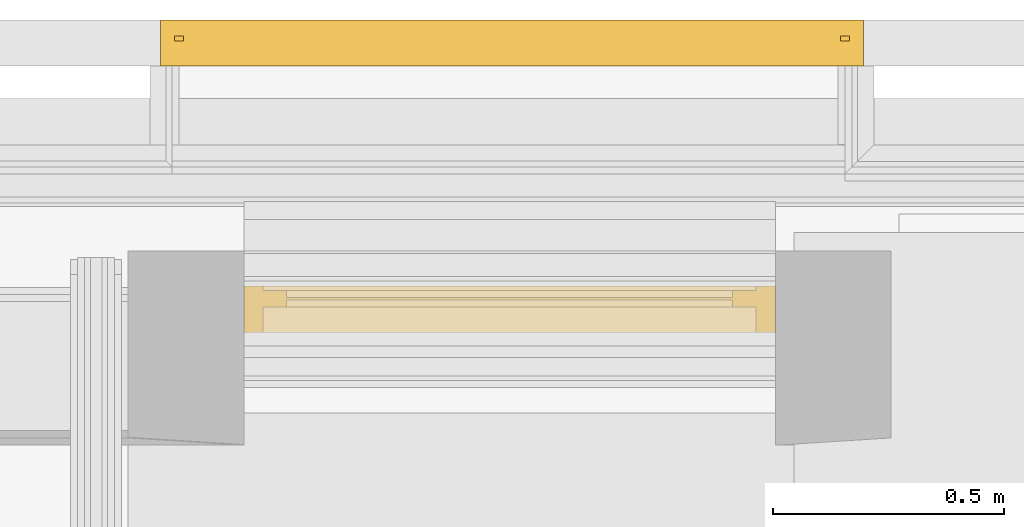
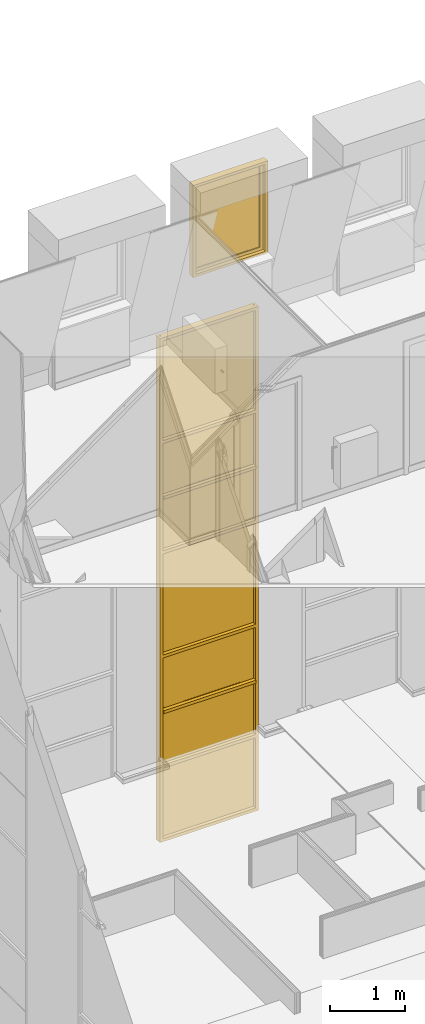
# One storey, part 111 of 169: 1 curtain wall, 1 window.
"""IFC2X3 building model written with IfcOpenShell, lengths in metres."""

from ifc_helpers import new_model, entity, si_unit, converted_unit, derived_unit, money_unit, direction, frame, origin_with_axes, place, context, subcontext, project, spatial, faceted_brep, material, type_object, element, save


model = new_model("IFC2X3")

# Units and contexts
model_context = context("Model", 3, precision=1e-05, world=origin_with_axes(), true_north=direction((0.0, 1.0)))
body_context = subcontext(model_context, "Body", "Model", "MODEL_VIEW", scale=1.0)
ifc_project = project(units=[si_unit("LENGTHUNIT", "METRE"), si_unit("AREAUNIT", "SQUARE_METRE"), si_unit("VOLUMEUNIT", "CUBIC_METRE"), si_unit("ABSORBEDDOSEUNIT", "GRAY"), si_unit("AMOUNTOFSUBSTANCEUNIT", "MOLE"), si_unit("DOSEEQUIVALENTUNIT", "SIEVERT"), si_unit("ELECTRICCAPACITANCEUNIT", "FARAD"), si_unit("ELECTRICCHARGEUNIT", "COULOMB"), si_unit("ELECTRICCONDUCTANCEUNIT", "SIEMENS"), si_unit("ELECTRICCURRENTUNIT", "AMPERE"), si_unit("ELECTRICRESISTANCEUNIT", "OHM"), si_unit("ELECTRICVOLTAGEUNIT", "VOLT"), si_unit("ENERGYUNIT", "JOULE"), si_unit("FORCEUNIT", "NEWTON"), si_unit("FREQUENCYUNIT", "HERTZ"), si_unit("ILLUMINANCEUNIT", "LUX"), si_unit("INDUCTANCEUNIT", "HENRY"), si_unit("LUMINOUSFLUXUNIT", "LUMEN"), si_unit("LUMINOUSINTENSITYUNIT", "CANDELA"), si_unit("MAGNETICFLUXDENSITYUNIT", "TESLA"), si_unit("MAGNETICFLUXUNIT", "WEBER"), si_unit("MASSUNIT", "GRAM"), converted_unit("PLANEANGLEUNIT", "degree", entity("IfcReal", 0.0174532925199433), si_unit("PLANEANGLEUNIT", "RADIAN"), dimensions=[0, 0, 0, 0, 0, 0, 0]), si_unit("POWERUNIT", "WATT"), si_unit("PRESSUREUNIT", "PASCAL"), si_unit("RADIOACTIVITYUNIT", "BECQUEREL"), si_unit("SOLIDANGLEUNIT", "STERADIAN"), si_unit("THERMODYNAMICTEMPERATUREUNIT", "KELVIN"), si_unit("TIMEUNIT", "SECOND"), derived_unit("ACCELERATIONUNIT", [(si_unit("LENGTHUNIT", "METRE"), 1), (si_unit("TIMEUNIT", "SECOND"), -2)]), derived_unit("ANGULARVELOCITYUNIT", [(converted_unit("PLANEANGLEUNIT", "degree", entity("IfcReal", 0.0174532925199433), si_unit("PLANEANGLEUNIT", "RADIAN"), dimensions=[0, 0, 0, 0, 0, 0, 0]), 1), (si_unit("TIMEUNIT", "SECOND"), -1)]), derived_unit("CURVATUREUNIT", [(converted_unit("PLANEANGLEUNIT", "degree", entity("IfcReal", 0.0174532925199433), si_unit("PLANEANGLEUNIT", "RADIAN"), dimensions=[0, 0, 0, 0, 0, 0, 0]), 1), (si_unit("LENGTHUNIT", "METRE"), -1)]), derived_unit("DYNAMICVISCOSITYUNIT", [(si_unit("PRESSUREUNIT", "PASCAL"), 1), (si_unit("TIMEUNIT", "SECOND"), 1)]), derived_unit("HEATFLUXDENSITYUNIT", [(si_unit("POWERUNIT", "WATT"), 1), (si_unit("LENGTHUNIT", "METRE"), -2)]), derived_unit("HEATINGVALUEUNIT", [(si_unit("ENERGYUNIT", "JOULE"), 1), (si_unit("MASSUNIT", "GRAM"), -1)]), derived_unit("INTEGERCOUNTRATEUNIT", [(si_unit("TIMEUNIT", "SECOND"), -1)]), derived_unit("IONCONCENTRATIONUNIT", [(si_unit("MASSUNIT", "GRAM"), 1), (si_unit("VOLUMEUNIT", "CUBIC_METRE"), -1)]), derived_unit("ISOTHERMALMOISTURECAPACITYUNIT", [(si_unit("VOLUMEUNIT", "CUBIC_METRE"), 1), (si_unit("MASSUNIT", "GRAM"), -1)]), derived_unit("KINEMATICVISCOSITYUNIT", [(si_unit("AREAUNIT", "SQUARE_METRE"), 1), (si_unit("TIMEUNIT", "SECOND"), -1)]), derived_unit("LINEARFORCEUNIT", [(si_unit("FORCEUNIT", "NEWTON"), 1), (si_unit("LENGTHUNIT", "METRE"), -1)]), derived_unit("LINEARMOMENTUNIT", [(si_unit("FORCEUNIT", "NEWTON"), 1), (si_unit("LENGTHUNIT", "METRE"), -1)]), derived_unit("LINEARSTIFFNESSUNIT", [(si_unit("FORCEUNIT", "NEWTON"), 1), (si_unit("LENGTHUNIT", "METRE"), -1)]), derived_unit("LINEARVELOCITYUNIT", [(si_unit("LENGTHUNIT", "METRE"), 1), (si_unit("TIMEUNIT", "SECOND"), -1)]), derived_unit("LUMINOUSINTENSITYDISTRIBUTIONUNIT", [(si_unit("LUMINOUSINTENSITYUNIT", "CANDELA"), 1), (si_unit("LUMINOUSFLUXUNIT", "LUMEN"), -1)]), derived_unit("MASSDENSITYUNIT", [(si_unit("MASSUNIT", "GRAM"), 1), (si_unit("VOLUMEUNIT", "CUBIC_METRE"), -1)]), derived_unit("MASSFLOWRATEUNIT", [(si_unit("MASSUNIT", "GRAM"), 1), (si_unit("TIMEUNIT", "SECOND"), -1)]), derived_unit("MASSPERLENGTHUNIT", [(si_unit("MASSUNIT", "GRAM"), 1), (si_unit("LENGTHUNIT", "METRE"), -1)]), derived_unit("MODULUSOFELASTICITYUNIT", [(si_unit("FORCEUNIT", "NEWTON"), 1), (si_unit("AREAUNIT", "SQUARE_METRE"), -1)]), derived_unit("MODULUSOFLINEARSUBGRADEREACTIONUNIT", [(si_unit("FORCEUNIT", "NEWTON"), 1), (si_unit("LENGTHUNIT", "METRE"), -2)]), derived_unit("MODULUSOFROTATIONALSUBGRADEREACTIONUNIT", [(si_unit("FORCEUNIT", "NEWTON"), 1), (si_unit("LENGTHUNIT", "METRE"), 1)]), derived_unit("MODULUSOFSUBGRADEREACTIONUNIT", [(si_unit("FORCEUNIT", "NEWTON"), 1), (si_unit("VOLUMEUNIT", "CUBIC_METRE"), -1)]), derived_unit("MOISTUREDIFFUSIVITYUNIT", [(si_unit("VOLUMEUNIT", "CUBIC_METRE"), 1), (si_unit("TIMEUNIT", "SECOND"), -1)]), derived_unit("MOLECULARWEIGHTUNIT", [(si_unit("MASSUNIT", "GRAM"), 1), (si_unit("AMOUNTOFSUBSTANCEUNIT", "MOLE"), -1)]), derived_unit("PLANARFORCEUNIT", [(si_unit("FORCEUNIT", "NEWTON"), 1), (si_unit("LENGTHUNIT", "METRE"), -2)]), derived_unit("ROTATIONALFREQUENCYUNIT", [(si_unit("TIMEUNIT", "SECOND"), -1)]), derived_unit("ROTATIONALMASSUNIT", [(si_unit("MASSUNIT", "GRAM"), 1), (si_unit("LENGTHUNIT", "METRE"), 2)]), derived_unit("ROTATIONALSTIFFNESSUNIT", [(si_unit("FORCEUNIT", "NEWTON"), 1), (si_unit("LENGTHUNIT", "METRE"), 1), (converted_unit("PLANEANGLEUNIT", "degree", entity("IfcReal", 0.0174532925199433), si_unit("PLANEANGLEUNIT", "RADIAN"), dimensions=[0, 0, 0, 0, 0, 0, 0]), -1)]), derived_unit("SECTIONAREAINTEGRALUNIT", [(si_unit("LENGTHUNIT", "METRE"), 5)]), derived_unit("SECTIONMODULUSUNIT", [(si_unit("LENGTHUNIT", "METRE"), 3)]), derived_unit("SHEARMODULUSUNIT", [(si_unit("FORCEUNIT", "NEWTON"), 1), (si_unit("AREAUNIT", "SQUARE_METRE"), -1)]), derived_unit("SOUNDPOWERUNIT", [(si_unit("ENERGYUNIT", "JOULE"), 1), (si_unit("TIMEUNIT", "SECOND"), -1)]), derived_unit("SPECIFICHEATCAPACITYUNIT", [(si_unit("FORCEUNIT", "NEWTON"), 1), (si_unit("MASSUNIT", "GRAM"), -1), (si_unit("THERMODYNAMICTEMPERATUREUNIT", "KELVIN"), -1)]), derived_unit("TEMPERATUREGRADIENTUNIT", [(si_unit("THERMODYNAMICTEMPERATUREUNIT", "KELVIN"), 1), (si_unit("LENGTHUNIT", "METRE"), -1)]), derived_unit("THERMALADMITTANCEUNIT", [(si_unit("POWERUNIT", "WATT"), 1), (si_unit("AREAUNIT", "SQUARE_METRE"), -1), (si_unit("THERMODYNAMICTEMPERATUREUNIT", "KELVIN"), -1)]), derived_unit("THERMALCONDUCTANCEUNIT", [(si_unit("POWERUNIT", "WATT"), 1), (si_unit("LENGTHUNIT", "METRE"), -1), (si_unit("THERMODYNAMICTEMPERATUREUNIT", "KELVIN"), -1)]), derived_unit("THERMALEXPANSIONCOEFFICIENTUNIT", [(si_unit("THERMODYNAMICTEMPERATUREUNIT", "KELVIN"), -1)]), derived_unit("THERMALRESISTANCEUNIT", [(si_unit("AREAUNIT", "SQUARE_METRE"), 1), (si_unit("POWERUNIT", "WATT"), -1)]), derived_unit("THERMALTRANSMITTANCEUNIT", [(si_unit("POWERUNIT", "WATT"), 1), (si_unit("AREAUNIT", "SQUARE_METRE"), -1), (si_unit("THERMODYNAMICTEMPERATUREUNIT", "KELVIN"), -1)]), derived_unit("TORQUEUNIT", [(si_unit("FORCEUNIT", "NEWTON"), 1), (si_unit("LENGTHUNIT", "METRE"), 1)]), derived_unit("VAPORPERMEABILITYUNIT", [(si_unit("MASSUNIT", "GRAM"), 1), (si_unit("TIMEUNIT", "SECOND"), -1)]), derived_unit("VOLUMETRICFLOWRATEUNIT", [(si_unit("VOLUMEUNIT", "CUBIC_METRE"), 1), (si_unit("TIMEUNIT", "SECOND"), -1)]), derived_unit("WARPINGCONSTANTUNIT", [(si_unit("LENGTHUNIT", "METRE"), 6)]), derived_unit("WARPINGMOMENTUNIT", [(si_unit("FORCEUNIT", "NEWTON"), 1), (si_unit("LENGTHUNIT", "METRE"), 2)]), money_unit("GBP")], contexts=[model_context])

# Site, building, storey
site_placement = place(None, origin_with_axes())
site = spatial("IfcSite", under=ifc_project, at=site_placement, Name="Site", CompositionType="ELEMENT")
building_placement = place(site_placement, origin_with_axes())
building = spatial("IfcBuilding", under=site, at=building_placement, Name="Building01", CompositionType="ELEMENT")
storey_placement = place(building_placement, frame((0.0, 0.0, 5.15), z_axis=(0.0, 0.0, 1.0), x_axis=(1.0, 0.0, 0.0)))
storey = spatial("IfcBuildingStorey", under=building, at=storey_placement, Name="1F", CompositionType="ELEMENT", Elevation=5.15)

# Curtain wall
ifc_material_1 = material(Name="A-CurtainWall_Frame")
curtain_wall_type = type_object("IfcCurtainWallType", Name="Pattern - Maximum Spacing", PredefinedType="NOTDEFINED")
curtain_wall_placement = place(storey_placement, frame((0.0, 0.0, -5.15), z_axis=(0.0, 0.0, 1.0), x_axis=(1.0, 0.0, 0.0)))
element("IfcCurtainWall", 1, at=curtain_wall_placement, inside=storey, type_object=curtain_wall_type, material=ifc_material_1, Name="10", ObjectType="Pattern - Maximum Spacing", context=body_context, shape_type="Brep", body=[
    faceted_brep([(6.57, 14.855, 7.716517), (6.57, 14.865, 7.716517), (5.11, 14.865, 7.716517), (5.11, 14.855, 7.716517), (6.57, 14.855, 6.530918), (6.57, 14.865, 6.530918), (5.11, 14.855, 6.530918), (5.11, 14.865, 6.530918)], [[[0, 1, 2, 3]], [[4, 5, 1, 0]], [[6, 7, 5, 4]], [[3, 2, 7, 6]], [[1, 5, 7, 2]], [[3, 6, 4, 0]]]),
    faceted_brep([(5.08, 14.9, 6.500918), (5.13, 14.9, 6.500918), (5.13, 14.865, 6.500918), (5.11, 14.865, 6.500918), (5.11, 14.855, 6.500918), (5.13, 14.855, 6.500918), (5.13, 14.8, 6.500918), (5.08, 14.8, 6.500918), (5.08, 14.8, 7.721517), (5.08, 14.9, 7.721517), (5.13, 14.9, 7.721517), (5.13, 14.865, 7.721517), (5.11, 14.865, 7.721517), (5.11, 14.855, 7.721517), (5.13, 14.855, 7.721517), (5.13, 14.8, 7.721517)], [[[0, 1, 2, 3, 4, 5, 6, 7]], [[7, 8, 9, 0]], [[0, 9, 10, 1]], [[1, 10, 11, 2]], [[2, 11, 12, 3]], [[3, 12, 13, 4]], [[4, 13, 14, 5]], [[5, 14, 15, 6]], [[6, 15, 8, 7]]]),
    faceted_brep([(6.55, 14.9, 6.550918), (6.55, 14.865, 6.550918), (6.55, 14.865, 6.530918), (6.55, 14.855, 6.530918), (6.55, 14.855, 6.550918), (6.55, 14.8, 6.550918), (6.55, 14.8, 6.500918), (6.55, 14.9, 6.500918), (5.13, 14.9, 6.500918), (5.13, 14.9, 6.550918), (5.13, 14.865, 6.550918), (5.13, 14.865, 6.530918), (5.13, 14.855, 6.530918), (5.13, 14.855, 6.550918), (5.13, 14.8, 6.550918), (5.13, 14.8, 6.500918)], [[[0, 1, 2, 3, 4, 5, 6, 7]], [[7, 8, 9, 0]], [[0, 9, 10, 1]], [[1, 10, 11, 2]], [[2, 11, 12, 3]], [[3, 12, 13, 4]], [[4, 13, 14, 5]], [[5, 14, 15, 6]], [[6, 15, 8, 7]], [[8, 15, 14, 13, 12, 11, 10, 9]]]),
    faceted_brep([(6.6, 14.9, 6.500918), (6.6, 14.9, 7.721517), (6.6, 14.8, 7.721517), (6.6, 14.8, 6.500918), (6.55, 14.9, 6.500918), (6.55, 14.9, 7.721517), (6.55, 14.865, 6.500918), (6.55, 14.865, 7.721517), (6.57, 14.865, 6.500918), (6.57, 14.865, 7.721517), (6.57, 14.855, 6.500918), (6.57, 14.855, 7.721517), (6.55, 14.855, 6.500918), (6.55, 14.855, 7.721517), (6.55, 14.8, 6.500918), (6.55, 14.8, 7.721517)], [[[0, 1, 2, 3]], [[4, 5, 1, 0]], [[6, 7, 5, 4]], [[8, 9, 7, 6]], [[10, 11, 9, 8]], [[12, 13, 11, 10]], [[14, 15, 13, 12]], [[3, 2, 15, 14]], [[14, 12, 10, 8, 6, 4, 0, 3]]]),
    faceted_brep([(5.13, 14.855, 7.726517), (5.13, 14.865, 7.726517), (5.13, 14.865, 7.746517), (5.13, 14.9, 7.746517), (5.13, 14.9, 7.696517), (5.13, 14.865, 7.696517), (5.13, 14.865, 7.716517), (5.13, 14.855, 7.716517), (5.13, 14.855, 7.696517), (5.13, 14.8, 7.696517), (5.13, 14.8, 7.746517), (5.13, 14.855, 7.746517), (6.55, 14.855, 7.746517), (6.55, 14.855, 7.726517), (6.55, 14.865, 7.726517), (6.55, 14.865, 7.746517), (6.55, 14.9, 7.746517), (6.55, 14.9, 7.696517), (6.55, 14.865, 7.696517), (6.55, 14.855, 7.716517), (6.55, 14.855, 7.696517), (6.55, 14.865, 7.716517), (6.55, 14.8, 7.746517), (6.55, 14.8, 7.696517)], [[[0, 1, 2, 3, 4, 5, 6, 7, 8, 9, 10, 11]], [[11, 12, 13, 0]], [[0, 13, 14, 1]], [[1, 14, 15, 2]], [[2, 15, 16, 3]], [[3, 16, 17, 4]], [[4, 17, 18, 5]], [[7, 19, 20, 8]], [[6, 21, 19, 7]], [[5, 18, 21, 6]], [[10, 22, 12, 11]], [[9, 23, 22, 10]], [[8, 20, 23, 9]], [[20, 19, 21, 18, 17, 16, 15, 14, 13, 12, 22, 23]]]),
    faceted_brep([(6.57, 14.85, 8.613217), (6.57, 14.87, 8.613217), (5.11, 14.87, 8.613217), (5.11, 14.85, 8.613217), (6.57, 14.85, 7.726517), (6.57, 14.87, 7.726517), (5.11, 14.85, 7.726517), (5.11, 14.87, 7.726517)], [[[0, 1, 2, 3]], [[4, 5, 1, 0]], [[6, 7, 5, 4]], [[3, 2, 7, 6]], [[1, 5, 7, 2]], [[3, 6, 4, 0]]]),
    faceted_brep([(5.13, 14.8, 8.618217), (5.13, 14.8, 7.721517), (5.13, 14.855, 7.721517), (5.13, 14.855, 8.618217), (5.08, 14.8, 8.618217), (5.08, 14.8, 7.721517), (5.08, 14.9, 8.618217), (5.08, 14.9, 7.721517), (5.13, 14.9, 8.618217), (5.13, 14.9, 7.721517), (5.13, 14.865, 8.618217), (5.13, 14.865, 7.721517), (5.11, 14.865, 8.618217), (5.11, 14.865, 7.721517), (5.11, 14.855, 8.618217), (5.11, 14.855, 7.721517)], [[[0, 1, 2, 3]], [[4, 5, 1, 0]], [[6, 7, 5, 4]], [[8, 9, 7, 6]], [[10, 11, 9, 8]], [[12, 13, 11, 10]], [[14, 15, 13, 12]], [[3, 2, 15, 14]]]),
    faceted_brep([(6.6, 14.9, 7.721517), (6.6, 14.9, 8.618217), (6.6, 14.8, 8.618217), (6.6, 14.8, 7.721517), (6.55, 14.9, 7.721517), (6.55, 14.9, 8.618217), (6.55, 14.865, 7.721517), (6.55, 14.865, 8.618217), (6.57, 14.865, 7.721517), (6.57, 14.865, 8.618217), (6.57, 14.855, 7.721517), (6.57, 14.855, 8.618217), (6.55, 14.855, 7.721517), (6.55, 14.855, 8.618217), (6.55, 14.8, 7.721517), (6.55, 14.8, 8.618217)], [[[0, 1, 2, 3]], [[4, 5, 1, 0]], [[6, 7, 5, 4]], [[8, 9, 7, 6]], [[10, 11, 9, 8]], [[12, 13, 11, 10]], [[14, 15, 13, 12]], [[3, 2, 15, 14]]]),
    faceted_brep([(5.13, 14.8375, 8.623217), (5.13, 14.8475, 8.623217), (5.13, 14.8475, 8.643217), (5.13, 14.8825, 8.643217), (5.13, 14.8825, 8.593217), (5.13, 14.8475, 8.593217), (5.13, 14.8475, 8.613217), (5.13, 14.8375, 8.613217), (5.13, 14.8375, 8.593217), (5.13, 14.7825, 8.593217), (5.13, 14.7825, 8.643217), (5.13, 14.8375, 8.643217), (6.55, 14.8375, 8.643217), (6.55, 14.8375, 8.623217), (6.55, 14.8475, 8.623217), (6.55, 14.8475, 8.643217), (6.55, 14.8825, 8.643217), (6.55, 14.8825, 8.593217), (6.55, 14.8475, 8.593217), (6.55, 14.8375, 8.613217), (6.55, 14.8375, 8.593217), (6.55, 14.8475, 8.613217), (6.55, 14.7825, 8.643217), (6.55, 14.7825, 8.593217)], [[[0, 1, 2, 3, 4, 5, 6, 7, 8, 9, 10, 11]], [[11, 12, 13, 0]], [[0, 13, 14, 1]], [[1, 14, 15, 2]], [[2, 15, 16, 3]], [[3, 16, 17, 4]], [[4, 17, 18, 5]], [[7, 19, 20, 8]], [[6, 21, 19, 7]], [[5, 18, 21, 6]], [[10, 22, 12, 11]], [[9, 23, 22, 10]], [[8, 20, 23, 9]], [[20, 19, 21, 18, 17, 16, 15, 14, 13, 12, 22, 23]]]),
    faceted_brep([(6.57, 14.85, 9.509916), (6.57, 14.87, 9.509916), (5.11, 14.87, 9.509916), (5.11, 14.85, 9.509916), (6.57, 14.85, 8.623217), (6.57, 14.87, 8.623217), (5.11, 14.85, 8.623217), (5.11, 14.87, 8.623217)], [[[0, 1, 2, 3]], [[4, 5, 1, 0]], [[6, 7, 5, 4]], [[3, 2, 7, 6]], [[1, 5, 7, 2]], [[3, 6, 4, 0]]]),
    faceted_brep([(5.13, 14.8, 9.514916), (5.13, 14.8, 8.618217), (5.13, 14.855, 8.618217), (5.13, 14.855, 9.514916), (5.08, 14.8, 9.514916), (5.08, 14.8, 8.618217), (5.08, 14.9, 9.514916), (5.08, 14.9, 8.618217), (5.13, 14.9, 9.514916), (5.13, 14.9, 8.618217), (5.13, 14.865, 9.514916), (5.13, 14.865, 8.618217), (5.11, 14.865, 9.514916), (5.11, 14.865, 8.618217), (5.11, 14.855, 9.514916), (5.11, 14.855, 8.618217)], [[[0, 1, 2, 3]], [[4, 5, 1, 0]], [[6, 7, 5, 4]], [[8, 9, 7, 6]], [[10, 11, 9, 8]], [[12, 13, 11, 10]], [[14, 15, 13, 12]], [[3, 2, 15, 14]]]),
    faceted_brep([(6.6, 14.9, 8.618217), (6.6, 14.9, 9.514916), (6.6, 14.8, 9.514916), (6.6, 14.8, 8.618217), (6.55, 14.9, 8.618217), (6.55, 14.9, 9.514916), (6.55, 14.865, 8.618217), (6.55, 14.865, 9.514916), (6.57, 14.865, 8.618217), (6.57, 14.865, 9.514916), (6.57, 14.855, 8.618217), (6.57, 14.855, 9.514916), (6.55, 14.855, 8.618217), (6.55, 14.855, 9.514916), (6.55, 14.8, 8.618217), (6.55, 14.8, 9.514916)], [[[0, 1, 2, 3]], [[4, 5, 1, 0]], [[6, 7, 5, 4]], [[8, 9, 7, 6]], [[10, 11, 9, 8]], [[12, 13, 11, 10]], [[14, 15, 13, 12]], [[3, 2, 15, 14]]]),
    faceted_brep([(5.13, 14.855, 9.519916), (5.13, 14.865, 9.519916), (5.13, 14.865, 9.539916), (5.13, 14.9, 9.539916), (5.13, 14.9, 9.489916), (5.13, 14.865, 9.489916), (5.13, 14.865, 9.509916), (5.13, 14.855, 9.509916), (5.13, 14.855, 9.489916), (5.13, 14.8, 9.489916), (5.13, 14.8, 9.539916), (5.13, 14.855, 9.539916), (6.55, 14.855, 9.539916), (6.55, 14.855, 9.519916), (6.55, 14.865, 9.519916), (6.55, 14.865, 9.539916), (6.55, 14.9, 9.539916), (6.55, 14.9, 9.489916), (6.55, 14.865, 9.489916), (6.55, 14.855, 9.509916), (6.55, 14.855, 9.489916), (6.55, 14.865, 9.509916), (6.55, 14.8, 9.539916), (6.55, 14.8, 9.489916)], [[[0, 1, 2, 3, 4, 5, 6, 7, 8, 9, 10, 11]], [[11, 12, 13, 0]], [[0, 13, 14, 1]], [[1, 14, 15, 2]], [[2, 15, 16, 3]], [[3, 16, 17, 4]], [[4, 17, 18, 5]], [[7, 19, 20, 8]], [[6, 21, 19, 7]], [[5, 18, 21, 6]], [[10, 22, 12, 11]], [[9, 23, 22, 10]], [[8, 20, 23, 9]], [[20, 19, 21, 18, 17, 16, 15, 14, 13, 12, 22, 23]]]),
    faceted_brep([(6.57, 14.855, 11.203681), (6.57, 14.865, 11.203681), (5.11, 14.865, 11.203681), (5.11, 14.855, 11.203681), (6.57, 14.855, 9.519916), (6.57, 14.865, 9.519916), (5.11, 14.855, 9.519916), (5.11, 14.865, 9.519916)], [[[0, 1, 2, 3]], [[4, 5, 1, 0]], [[6, 7, 5, 4]], [[3, 2, 7, 6]], [[1, 5, 7, 2]], [[3, 6, 4, 0]]]),
    faceted_brep([(5.13, 14.8, 11.208681), (5.13, 14.8, 9.514916), (5.13, 14.855, 9.514916), (5.13, 14.855, 11.208681), (5.08, 14.8, 11.208681), (5.08, 14.8, 9.514916), (5.08, 14.9, 11.208681), (5.08, 14.9, 9.514916), (5.13, 14.9, 11.208681), (5.13, 14.9, 9.514916), (5.13, 14.865, 11.208681), (5.13, 14.865, 9.514916), (5.11, 14.865, 11.208681), (5.11, 14.865, 9.514916), (5.11, 14.855, 11.208681), (5.11, 14.855, 9.514916)], [[[0, 1, 2, 3]], [[4, 5, 1, 0]], [[6, 7, 5, 4]], [[8, 9, 7, 6]], [[10, 11, 9, 8]], [[12, 13, 11, 10]], [[14, 15, 13, 12]], [[3, 2, 15, 14]]]),
    faceted_brep([(6.6, 14.9, 9.514916), (6.6, 14.9, 11.208681), (6.6, 14.8, 11.208681), (6.6, 14.8, 9.514916), (6.55, 14.9, 9.514916), (6.55, 14.9, 11.208681), (6.55, 14.865, 9.514916), (6.55, 14.865, 11.208681), (6.57, 14.865, 9.514916), (6.57, 14.865, 11.208681), (6.57, 14.855, 9.514916), (6.57, 14.855, 11.208681), (6.55, 14.855, 9.514916), (6.55, 14.855, 11.208681), (6.55, 14.8, 9.514916), (6.55, 14.8, 11.208681)], [[[0, 1, 2, 3]], [[4, 5, 1, 0]], [[6, 7, 5, 4]], [[8, 9, 7, 6]], [[10, 11, 9, 8]], [[12, 13, 11, 10]], [[14, 15, 13, 12]], [[3, 2, 15, 14]]]),
    faceted_brep([(5.13, 14.855, 11.213681), (5.13, 14.865, 11.213681), (5.13, 14.865, 11.233681), (5.13, 14.9, 11.233681), (5.13, 14.9, 11.183681), (5.13, 14.865, 11.183681), (5.13, 14.865, 11.203681), (5.13, 14.855, 11.203681), (5.13, 14.855, 11.183681), (5.13, 14.8, 11.183681), (5.13, 14.8, 11.233681), (5.13, 14.855, 11.233681), (6.55, 14.855, 11.233681), (6.55, 14.855, 11.213681), (6.55, 14.865, 11.213681), (6.55, 14.865, 11.233681), (6.55, 14.9, 11.233681), (6.55, 14.9, 11.183681), (6.55, 14.865, 11.183681), (6.55, 14.855, 11.203681), (6.55, 14.855, 11.183681), (6.55, 14.865, 11.203681), (6.55, 14.8, 11.233681), (6.55, 14.8, 11.183681)], [[[0, 1, 2, 3, 4, 5, 6, 7, 8, 9, 10, 11]], [[11, 12, 13, 0]], [[0, 13, 14, 1]], [[1, 14, 15, 2]], [[2, 15, 16, 3]], [[3, 16, 17, 4]], [[4, 17, 18, 5]], [[7, 19, 20, 8]], [[6, 21, 19, 7]], [[5, 18, 21, 6]], [[10, 22, 12, 11]], [[9, 23, 22, 10]], [[8, 20, 23, 9]], [[20, 19, 21, 18, 17, 16, 15, 14, 13, 12, 22, 23]]]),
    faceted_brep([(6.57, 14.85, 12.10038), (6.57, 14.87, 12.10038), (5.11, 14.87, 12.10038), (5.11, 14.85, 12.10038), (6.57, 14.85, 11.213681), (6.57, 14.87, 11.213681), (5.11, 14.85, 11.213681), (5.11, 14.87, 11.213681)], [[[0, 1, 2, 3]], [[4, 5, 1, 0]], [[6, 7, 5, 4]], [[3, 2, 7, 6]], [[1, 5, 7, 2]], [[3, 6, 4, 0]]]),
    faceted_brep([(5.13, 14.8, 12.10538), (5.13, 14.8, 11.208681), (5.13, 14.855, 11.208681), (5.13, 14.855, 12.10538), (5.08, 14.8, 12.10538), (5.08, 14.8, 11.208681), (5.08, 14.9, 12.10538), (5.08, 14.9, 11.208681), (5.13, 14.9, 12.10538), (5.13, 14.9, 11.208681), (5.13, 14.865, 12.10538), (5.13, 14.865, 11.208681), (5.11, 14.865, 12.10538), (5.11, 14.865, 11.208681), (5.11, 14.855, 12.10538), (5.11, 14.855, 11.208681)], [[[0, 1, 2, 3]], [[4, 5, 1, 0]], [[6, 7, 5, 4]], [[8, 9, 7, 6]], [[10, 11, 9, 8]], [[12, 13, 11, 10]], [[14, 15, 13, 12]], [[3, 2, 15, 14]]]),
    faceted_brep([(6.6, 14.9, 11.208681), (6.6, 14.9, 12.10538), (6.6, 14.8, 12.10538), (6.6, 14.8, 11.208681), (6.55, 14.9, 11.208681), (6.55, 14.9, 12.10538), (6.55, 14.865, 11.208681), (6.55, 14.865, 12.10538), (6.57, 14.865, 11.208681), (6.57, 14.865, 12.10538), (6.57, 14.855, 11.208681), (6.57, 14.855, 12.10538), (6.55, 14.855, 11.208681), (6.55, 14.855, 12.10538), (6.55, 14.8, 11.208681), (6.55, 14.8, 12.10538)], [[[0, 1, 2, 3]], [[4, 5, 1, 0]], [[6, 7, 5, 4]], [[8, 9, 7, 6]], [[10, 11, 9, 8]], [[12, 13, 11, 10]], [[14, 15, 13, 12]], [[3, 2, 15, 14]]]),
    faceted_brep([(5.13, 14.8375, 12.11038), (5.13, 14.8475, 12.11038), (5.13, 14.8475, 12.13038), (5.13, 14.8825, 12.13038), (5.13, 14.8825, 12.08038), (5.13, 14.8475, 12.08038), (5.13, 14.8475, 12.10038), (5.13, 14.8375, 12.10038), (5.13, 14.8375, 12.08038), (5.13, 14.7825, 12.08038), (5.13, 14.7825, 12.13038), (5.13, 14.8375, 12.13038), (6.55, 14.8375, 12.13038), (6.55, 14.8375, 12.11038), (6.55, 14.8475, 12.11038), (6.55, 14.8475, 12.13038), (6.55, 14.8825, 12.13038), (6.55, 14.8825, 12.08038), (6.55, 14.8475, 12.08038), (6.55, 14.8375, 12.10038), (6.55, 14.8375, 12.08038), (6.55, 14.8475, 12.10038), (6.55, 14.7825, 12.13038), (6.55, 14.7825, 12.08038)], [[[0, 1, 2, 3, 4, 5, 6, 7, 8, 9, 10, 11]], [[11, 12, 13, 0]], [[0, 13, 14, 1]], [[1, 14, 15, 2]], [[2, 15, 16, 3]], [[3, 16, 17, 4]], [[4, 17, 18, 5]], [[7, 19, 20, 8]], [[6, 21, 19, 7]], [[5, 18, 21, 6]], [[10, 22, 12, 11]], [[9, 23, 22, 10]], [[8, 20, 23, 9]], [[20, 19, 21, 18, 17, 16, 15, 14, 13, 12, 22, 23]]]),
    faceted_brep([(5.11, 14.855, 13.00708), (5.11, 14.865, 13.00708), (6.57, 14.865, 13.00708), (6.57, 14.855, 13.00708), (5.11, 14.855, 14.670918), (5.11, 14.865, 14.670918), (6.57, 14.855, 14.670918), (6.57, 14.865, 14.670918)], [[[0, 1, 2, 3]], [[4, 5, 1, 0]], [[6, 7, 5, 4]], [[3, 2, 7, 6]], [[1, 5, 7, 2]], [[3, 6, 4, 0]]]),
    faceted_brep([(6.6, 14.9, 14.700918), (6.55, 14.9, 14.700918), (6.55, 14.865, 14.700918), (6.57, 14.865, 14.700918), (6.57, 14.855, 14.700918), (6.55, 14.855, 14.700918), (6.55, 14.8, 14.700918), (6.6, 14.8, 14.700918), (6.6, 14.8, 13.00208), (6.6, 14.9, 13.00208), (6.55, 14.9, 13.00208), (6.55, 14.865, 13.00208), (6.57, 14.865, 13.00208), (6.57, 14.855, 13.00208), (6.55, 14.855, 13.00208), (6.55, 14.8, 13.00208)], [[[0, 1, 2, 3, 4, 5, 6, 7]], [[7, 8, 9, 0]], [[0, 9, 10, 1]], [[1, 10, 11, 2]], [[2, 11, 12, 3]], [[3, 12, 13, 4]], [[4, 13, 14, 5]], [[5, 14, 15, 6]], [[6, 15, 8, 7]]]),
    faceted_brep([(5.13, 14.865, 14.670918), (5.13, 14.855, 14.670918), (5.13, 14.855, 14.650918), (5.13, 14.8, 14.650918), (5.13, 14.8, 14.700918), (5.13, 14.9, 14.700918), (5.13, 14.9, 14.650918), (5.13, 14.865, 14.650918), (6.55, 14.865, 14.650918), (6.55, 14.865, 14.670918), (6.55, 14.855, 14.670918), (6.55, 14.855, 14.650918), (6.55, 14.8, 14.650918), (6.55, 14.8, 14.700918), (6.55, 14.9, 14.700918), (6.55, 14.9, 14.650918)], [[[0, 1, 2, 3, 4, 5, 6, 7]], [[7, 8, 9, 0]], [[0, 9, 10, 1]], [[1, 10, 11, 2]], [[2, 11, 12, 3]], [[3, 12, 13, 4]], [[4, 13, 14, 5]], [[5, 14, 15, 6]], [[6, 15, 8, 7]], [[8, 15, 14, 13, 12, 11, 10, 9]]]),
    faceted_brep([(5.08, 14.9, 14.700918), (5.08, 14.9, 13.00208), (5.08, 14.8, 13.00208), (5.08, 14.8, 14.700918), (5.13, 14.9, 14.700918), (5.13, 14.9, 13.00208), (5.13, 14.865, 14.700918), (5.13, 14.865, 13.00208), (5.11, 14.865, 14.700918), (5.11, 14.865, 13.00208), (5.11, 14.855, 14.700918), (5.11, 14.855, 13.00208), (5.13, 14.855, 14.700918), (5.13, 14.855, 13.00208), (5.13, 14.8, 14.700918), (5.13, 14.8, 13.00208)], [[[0, 1, 2, 3]], [[4, 5, 1, 0]], [[6, 7, 5, 4]], [[8, 9, 7, 6]], [[10, 11, 9, 8]], [[12, 13, 11, 10]], [[14, 15, 13, 12]], [[3, 2, 15, 14]], [[14, 12, 10, 8, 6, 4, 0, 3]]]),
    faceted_brep([(6.55, 14.865, 13.00708), (6.55, 14.855, 13.00708), (6.55, 14.855, 13.02708), (6.55, 14.8, 13.02708), (6.55, 14.8, 12.97708), (6.55, 14.855, 12.97708), (6.55, 14.855, 12.99708), (6.55, 14.865, 12.99708), (6.55, 14.865, 12.97708), (6.55, 14.9, 12.97708), (6.55, 14.9, 13.02708), (6.55, 14.865, 13.02708), (5.13, 14.865, 13.02708), (5.13, 14.865, 13.00708), (5.13, 14.855, 13.00708), (5.13, 14.855, 13.02708), (5.13, 14.8, 13.02708), (5.13, 14.8, 12.97708), (5.13, 14.855, 12.97708), (5.13, 14.865, 12.99708), (5.13, 14.865, 12.97708), (5.13, 14.855, 12.99708), (5.13, 14.9, 13.02708), (5.13, 14.9, 12.97708)], [[[0, 1, 2, 3, 4, 5, 6, 7, 8, 9, 10, 11]], [[11, 12, 13, 0]], [[0, 13, 14, 1]], [[1, 14, 15, 2]], [[2, 15, 16, 3]], [[3, 16, 17, 4]], [[4, 17, 18, 5]], [[7, 19, 20, 8]], [[6, 21, 19, 7]], [[5, 18, 21, 6]], [[10, 22, 12, 11]], [[9, 23, 22, 10]], [[8, 20, 23, 9]], [[20, 19, 21, 18, 17, 16, 15, 14, 13, 12, 22, 23]]]),
    faceted_brep([(6.57, 14.85, 12.99708), (6.57, 14.87, 12.99708), (5.11, 14.87, 12.99708), (5.11, 14.85, 12.99708), (6.57, 14.85, 12.11038), (6.57, 14.87, 12.11038), (5.11, 14.85, 12.11038), (5.11, 14.87, 12.11038)], [[[0, 1, 2, 3]], [[4, 5, 1, 0]], [[6, 7, 5, 4]], [[3, 2, 7, 6]], [[1, 5, 7, 2]], [[3, 6, 4, 0]]]),
    faceted_brep([(5.13, 14.8, 13.00208), (5.13, 14.8, 12.10538), (5.13, 14.855, 12.10538), (5.13, 14.855, 13.00208), (5.08, 14.8, 13.00208), (5.08, 14.8, 12.10538), (5.08, 14.9, 13.00208), (5.08, 14.9, 12.10538), (5.13, 14.9, 13.00208), (5.13, 14.9, 12.10538), (5.13, 14.865, 13.00208), (5.13, 14.865, 12.10538), (5.11, 14.865, 13.00208), (5.11, 14.865, 12.10538), (5.11, 14.855, 13.00208), (5.11, 14.855, 12.10538)], [[[0, 1, 2, 3]], [[4, 5, 1, 0]], [[6, 7, 5, 4]], [[8, 9, 7, 6]], [[10, 11, 9, 8]], [[12, 13, 11, 10]], [[14, 15, 13, 12]], [[3, 2, 15, 14]]]),
    faceted_brep([(6.6, 14.9, 12.10538), (6.6, 14.9, 13.00208), (6.6, 14.8, 13.00208), (6.6, 14.8, 12.10538), (6.55, 14.9, 12.10538), (6.55, 14.9, 13.00208), (6.55, 14.865, 12.10538), (6.55, 14.865, 13.00208), (6.57, 14.865, 12.10538), (6.57, 14.865, 13.00208), (6.57, 14.855, 12.10538), (6.57, 14.855, 13.00208), (6.55, 14.855, 12.10538), (6.55, 14.855, 13.00208), (6.55, 14.8, 12.10538), (6.55, 14.8, 13.00208)], [[[0, 1, 2, 3]], [[4, 5, 1, 0]], [[6, 7, 5, 4]], [[8, 9, 7, 6]], [[10, 11, 9, 8]], [[12, 13, 11, 10]], [[14, 15, 13, 12]], [[3, 2, 15, 14]]]),
])

# Space
space_placement = place(storey_placement, frame((1.009939, 13.890379, 9.86), z_axis=(0.0, 0.0, 1.0), x_axis=(0.0, -1.0, 0.0)))
space = spatial("IfcSpace", under=storey, at=space_placement, Name="26", CompositionType="ELEMENT", InteriorOrExteriorSpace="NOTDEFINED")

# Window
ifc_material_2 = material(Name="A_BSUK_Windows")
window_style = type_object("IfcWindowStyle", Name="A-Awning", ConstructionType="NOTDEFINED", OperationType="USERDEFINED", ParameterTakesPrecedence=False, Sizeable=False)
window_placement = place(storey_placement, frame((5.260024, 14.350061, 10.83), z_axis=(0.0, 0.0, 1.0), x_axis=(-1.0, 0.0, 0.0)))
element("IfcWindow", 2, at=window_placement, inside=space, type_object=window_style, material=ifc_material_2, Name="4.15", ObjectType="A-Awning", OverallHeight=1.50000000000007, OverallWidth=1.15000000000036, context=body_context, shape_type="Brep", body=[
    faceted_brep([(-1.108, 0.0254, 0.042), (-0.042, 0.0254, 0.042), (-0.042, 0.1254, 0.042), (-1.108, 0.1254, 0.042), (-1.108, 0.0254, 1.458), (-1.108, 0.1254, 1.458), (-0.042, 0.0254, 1.458), (-0.042, 0.1254, 1.458), (0.0, 0.0254, 0.0), (0.0, 0.0254, 1.5), (-1.15, 0.0254, 1.5), (-1.15, 0.0254, 0.0), (0.0, 0.1254, 1.5), (-1.15, 0.1254, 1.5), (-1.15, 0.1254, 0.0), (0.0, 0.1254, 0.0)], [[[0, 1, 2, 3]], [[4, 0, 3, 5]], [[6, 4, 5, 7]], [[8, 9, 10, 11], [4, 6, 1, 0]], [[1, 6, 7, 2]], [[12, 13, 10, 9]], [[14, 15, 8, 11]], [[13, 14, 11, 10]], [[13, 12, 15, 14], [2, 7, 5, 3]], [[15, 12, 9, 8]]]),
    faceted_brep([(-1.0572, 0.0354, 0.0928), (-0.0928, 0.0354, 0.0928), (-0.0928, 0.0704, 0.0928), (-1.0572, 0.0704, 0.0928), (-1.0572, 0.0354, 1.4072), (-1.0572, 0.0704, 1.4072), (-0.0928, 0.0354, 1.4072), (-0.0928, 0.0704, 1.4072), (-1.108, 0.0704, 1.458), (-0.042, 0.0704, 1.458), (-0.042, 0.0704, 0.042), (-1.108, 0.0704, 0.042), (-1.108, 0.0354, 1.458), (-0.042, 0.0354, 1.458), (-0.042, 0.0354, 0.042), (-1.108, 0.0354, 0.042)], [[[0, 1, 2, 3]], [[4, 0, 3, 5]], [[6, 4, 5, 7]], [[8, 9, 10, 11], [2, 7, 5, 3]], [[9, 8, 12, 13]], [[10, 9, 13, 14]], [[11, 10, 14, 15]], [[8, 11, 15, 12]], [[14, 13, 12, 15], [4, 6, 1, 0]], [[1, 6, 7, 2]]]),
    faceted_brep([(-0.0928, 0.049725, 0.0928), (-0.0928, 0.056075, 0.0928), (-0.0928, 0.056075, 1.4072), (-0.0928, 0.049725, 1.4072), (-1.0572, 0.049725, 1.4072), (-1.0572, 0.056075, 1.4072), (-1.0572, 0.056075, 0.0928), (-1.0572, 0.049725, 0.0928)], [[[0, 1, 2, 3]], [[4, 5, 6, 7]], [[3, 2, 5, 4]], [[3, 4, 7, 0]], [[7, 6, 1, 0]], [[1, 6, 5, 2]]]),
])

save(model, "model.ifc")
